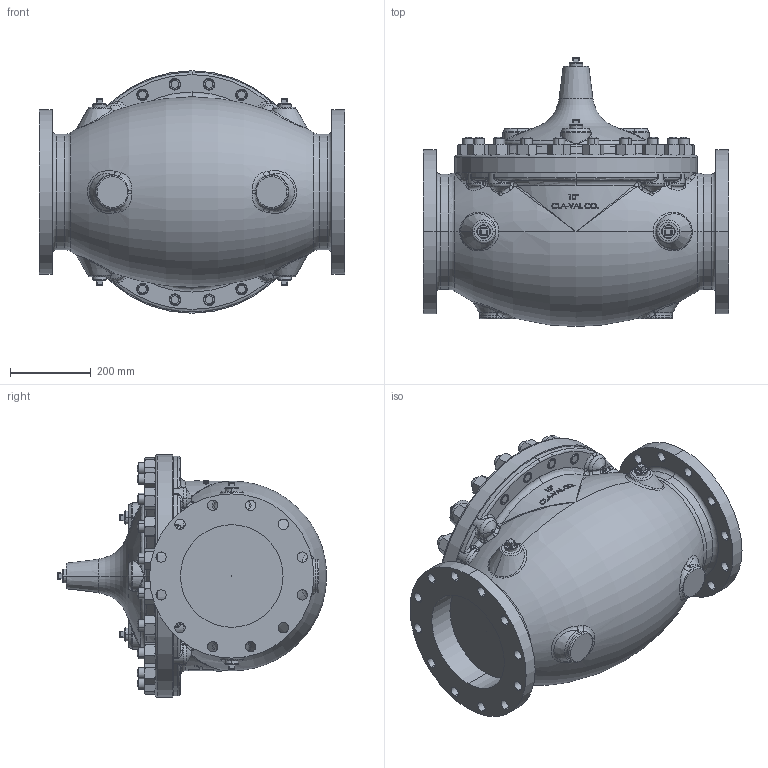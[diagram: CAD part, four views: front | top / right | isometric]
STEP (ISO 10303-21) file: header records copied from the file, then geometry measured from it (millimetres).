
FILE_DESCRIPTION (( 'STEP AP203' ), '1' );
FILE_NAME ('10in Hytrol 150A.STEP', '2016-06-07T21:59:24', ( '' ), ( '' ), 'SwSTEP 2.0', 'SolidWorks 2016', '' );
FILE_SCHEMA (( 'CONFIG_CONTROL_DESIGN' ));
Length unit declared in the file: inch
Products named in the file (6): 10in Cover 100-01_NO SpotFace-2 bosses drld; STUD 1.125-7 UNC (42785)_STEEL SA 193, 4.25 LG; Hexnut 1.250-7 UNC (67820)_ASF-STEEL,CP; 1.0 NPT SQ HD PIPE PLUG (67660)_18-8 SST; 10in Hytrol 150A; 10in Body HyGl150A STD (BLUE)_Default 150 FLAT FACE
Assembly tree (49 placements, depth 2):
  10in Hytrol 150A
    10in Body HyGl150A STD (BLUE)_Default 150 FLAT FACE
    10in Cover 100-01_NO SpotFace-2 bosses drld
    STUD 1.125-7 UNC (42785)_STEEL SA 193, 4.25 LG  x20
    Hexnut 1.250-7 UNC (67820)_ASF-STEEL,CP  x20
    1.0 NPT SQ HD PIPE PLUG (67660)_18-8 SST  x7
Bounding box: 755.65 x 665.65 x 599.95 mm (x, y, z)
Volume: 100929493.6 mm3; surface area: 3148003.3 mm2
Topology: 49 solids, 49 shells, 1955 faces, 4539 edges, 2679 vertices
Faces by surface type: cone 549, cylinder 480, plane 374, bspline 285, torus 185, sphere 82
Entity records: 55673 total; most frequent: CARTESIAN_POINT 30489, ORIENTED_EDGE 5190, DIRECTION 4526, EDGE_CURVE 2595, AXIS2_PLACEMENT_3D 1962, VERTEX_POINT 1608, EDGE_LOOP 1225, CIRCLE 1141
